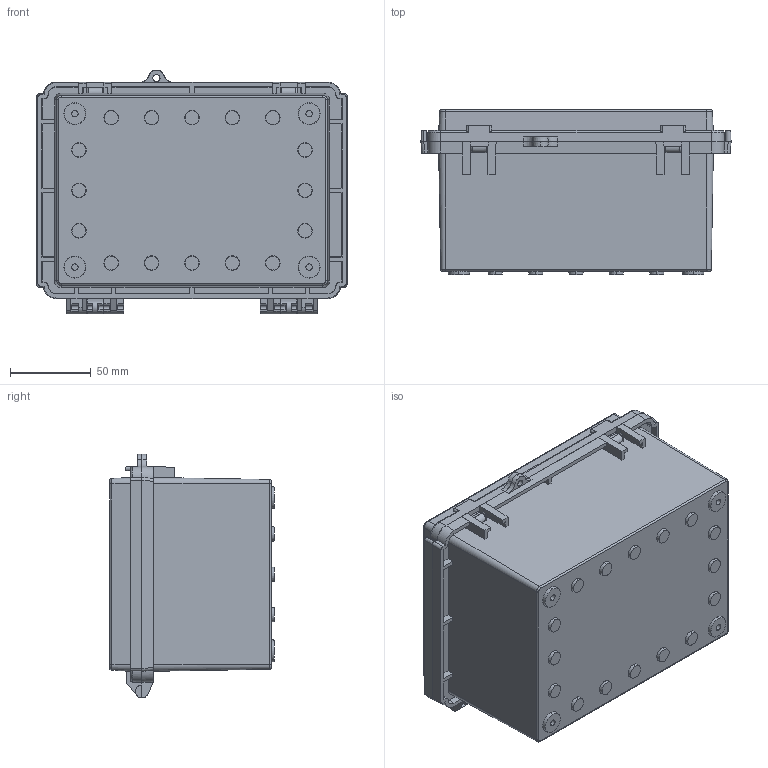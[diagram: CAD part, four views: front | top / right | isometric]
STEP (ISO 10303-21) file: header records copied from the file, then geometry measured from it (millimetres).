
FILE_DESCRIPTION (( 'STEP AP203' ), '1' );
FILE_NAME ('PC1318.STEP', '2018-10-18T05:22:37', ( '' ), ( '' ), 'SwSTEP 2.0', 'SolidWorks 2018', '' );
FILE_SCHEMA (( 'CONFIG_CONTROL_DESIGN' ));
Length unit declared in the file: millimetre
Products named in the file (3): PC1318
Assembly tree (2 placements, depth 2):
  PC1318
    PC1318
    PC1318
Bounding box: 192 x 102 x 151 mm (x, y, z)
Volume: 336617.8 mm3; surface area: 231800.2 mm2
Topology: 2 solids, 2 shells, 646 faces, 1662 edges, 1070 vertices
Faces by surface type: plane 368, cone 113, cylinder 104, bspline 52, torus 8, sphere 1
Entity records: 22906 total; most frequent: CARTESIAN_POINT 7294, ORIENTED_EDGE 3318, DIRECTION 2995, EDGE_CURVE 1659, VERTEX_POINT 1068, VECTOR 1061, LINE 1061, AXIS2_PLACEMENT_3D 967
